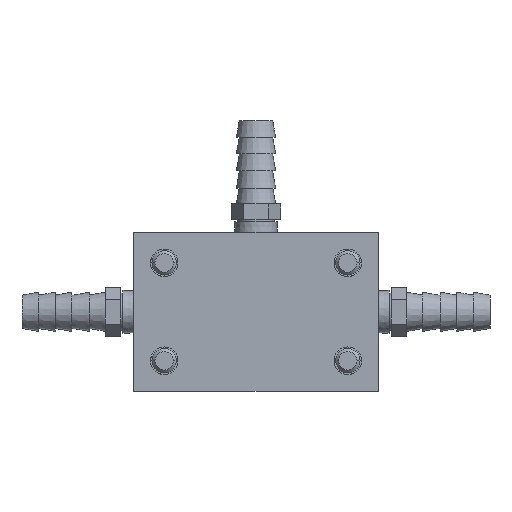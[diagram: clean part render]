
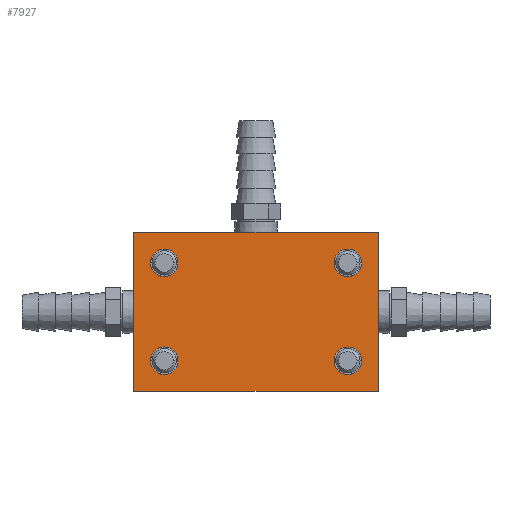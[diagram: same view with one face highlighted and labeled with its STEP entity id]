
A CAD part, left-side view. The second image highlights one B-rep face of the part: STEP entity #7927.
In plain terms, the highlighted planar face has unit normal (-1, 0, 0).
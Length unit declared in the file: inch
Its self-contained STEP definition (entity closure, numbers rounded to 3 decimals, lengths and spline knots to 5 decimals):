
#7665=CARTESIAN_POINT('',(-2.75,-0.9375,-0.5));
#7666=DIRECTION('',(1.,0.,0.));
#7667=DIRECTION('',(0.,-1.,0.));
#7668=AXIS2_PLACEMENT_3D('',#7665,#7666,#7667);
#7670=CARTESIAN_POINT('',(-2.75,-0.9375,-0.5));
#7671=DIRECTION('',(1.,0.,0.));
#7672=DIRECTION('',(0.,1.,0.));
#7673=AXIS2_PLACEMENT_3D('',#7670,#7671,#7672);
#7675=CARTESIAN_POINT('',(-2.75,0.9375,-0.5));
#7676=DIRECTION('',(1.,0.,0.));
#7677=DIRECTION('',(0.,-1.,0.));
#7678=AXIS2_PLACEMENT_3D('',#7675,#7676,#7677);
#7680=CARTESIAN_POINT('',(-2.75,0.9375,-0.5));
#7681=DIRECTION('',(1.,0.,0.));
#7682=DIRECTION('',(0.,1.,0.));
#7683=AXIS2_PLACEMENT_3D('',#7680,#7681,#7682);
#7685=CARTESIAN_POINT('',(-2.75,0.9375,0.5));
#7686=DIRECTION('',(1.,0.,0.));
#7687=DIRECTION('',(0.,-1.,0.));
#7688=AXIS2_PLACEMENT_3D('',#7685,#7686,#7687);
#7690=CARTESIAN_POINT('',(-2.75,0.9375,0.5));
#7691=DIRECTION('',(1.,0.,0.));
#7692=DIRECTION('',(0.,1.,0.));
#7693=AXIS2_PLACEMENT_3D('',#7690,#7691,#7692);
#7695=CARTESIAN_POINT('',(-2.75,-0.9375,0.5));
#7696=DIRECTION('',(1.,0.,0.));
#7697=DIRECTION('',(0.,-1.,0.));
#7698=AXIS2_PLACEMENT_3D('',#7695,#7696,#7697);
#7700=CARTESIAN_POINT('',(-2.75,-0.9375,0.5));
#7701=DIRECTION('',(1.,0.,0.));
#7702=DIRECTION('',(0.,1.,0.));
#7703=AXIS2_PLACEMENT_3D('',#7700,#7701,#7702);
#7797=DIRECTION('',(0.,0.,-1.));
#7798=VECTOR('',#7797,1.625);
#7799=CARTESIAN_POINT('',(-2.75,-1.25,0.8125));
#7800=LINE('',#7799,#7798);
#7805=DIRECTION('',(0.,1.,0.));
#7806=VECTOR('',#7805,2.5);
#7807=CARTESIAN_POINT('',(-2.75,-1.25,-0.8125));
#7808=LINE('',#7807,#7806);
#7809=DIRECTION('',(0.,0.,1.));
#7810=VECTOR('',#7809,1.625);
#7811=CARTESIAN_POINT('',(-2.75,1.25,-0.8125));
#7812=LINE('',#7811,#7810);
#7817=DIRECTION('',(0.,-1.,0.));
#7818=VECTOR('',#7817,2.5);
#7819=CARTESIAN_POINT('',(-2.75,1.25,0.8125));
#7820=LINE('',#7819,#7818);
#7829=CARTESIAN_POINT('',(-2.75,-1.25,-0.8125));
#7830=CARTESIAN_POINT('',(-2.75,1.25,-0.8125));
#7831=VERTEX_POINT('',#7829);
#7832=VERTEX_POINT('',#7830);
#7835=CARTESIAN_POINT('',(-2.75,-1.25,0.8125));
#7836=VERTEX_POINT('',#7835);
#7837=CARTESIAN_POINT('',(-2.75,1.25,0.8125));
#7838=VERTEX_POINT('',#7837);
#7841=CARTESIAN_POINT('',(-2.75,1.07813,0.5));
#7843=VERTEX_POINT('',#7841);
#7845=CARTESIAN_POINT('',(-2.75,0.79688,0.5));
#7847=VERTEX_POINT('',#7845);
#7849=CARTESIAN_POINT('',(-2.75,-0.79688,0.5));
#7851=VERTEX_POINT('',#7849);
#7853=CARTESIAN_POINT('',(-2.75,-1.07813,0.5));
#7855=VERTEX_POINT('',#7853);
#7857=CARTESIAN_POINT('',(-2.75,1.07813,-0.5));
#7859=VERTEX_POINT('',#7857);
#7861=CARTESIAN_POINT('',(-2.75,0.79688,-0.5));
#7863=VERTEX_POINT('',#7861);
#7865=CARTESIAN_POINT('',(-2.75,-0.79688,-0.5));
#7867=VERTEX_POINT('',#7865);
#7869=CARTESIAN_POINT('',(-2.75,-1.07813,-0.5));
#7871=VERTEX_POINT('',#7869);
#7889=CARTESIAN_POINT('',(-2.75,0.,0.));
#7890=DIRECTION('',(1.,0.,0.));
#7891=DIRECTION('',(0.,-1.,0.));
#7892=AXIS2_PLACEMENT_3D('',#7889,#7890,#7891);
#7893=PLANE('',#7892);
#7895=ORIENTED_EDGE('',*,*,#7894,.T.);
#7897=ORIENTED_EDGE('',*,*,#7896,.T.);
#7899=ORIENTED_EDGE('',*,*,#7898,.T.);
#7901=ORIENTED_EDGE('',*,*,#7900,.T.);
#7902=EDGE_LOOP('',(#7895,#7897,#7899,#7901));
#7903=FACE_OUTER_BOUND('',#7902,.F.);
#7905=ORIENTED_EDGE('',*,*,#7904,.F.);
#7907=ORIENTED_EDGE('',*,*,#7906,.F.);
#7908=EDGE_LOOP('',(#7905,#7907));
#7909=FACE_BOUND('',#7908,.F.);
#7910=ORIENTED_EDGE('',*,*,#7878,.F.);
#7912=ORIENTED_EDGE('',*,*,#7911,.F.);
#7913=EDGE_LOOP('',(#7910,#7912));
#7914=FACE_BOUND('',#7913,.F.);
#7916=ORIENTED_EDGE('',*,*,#7915,.F.);
#7918=ORIENTED_EDGE('',*,*,#7917,.F.);
#7919=EDGE_LOOP('',(#7916,#7918));
#7920=FACE_BOUND('',#7919,.F.);
#7922=ORIENTED_EDGE('',*,*,#7921,.F.);
#7924=ORIENTED_EDGE('',*,*,#7923,.F.);
#7925=EDGE_LOOP('',(#7922,#7924));
#7926=FACE_BOUND('',#7925,.F.);
#7669=CIRCLE('',#7668,0.14063);
#7674=CIRCLE('',#7673,0.14063);
#7679=CIRCLE('',#7678,0.14063);
#7684=CIRCLE('',#7683,0.14063);
#7689=CIRCLE('',#7688,0.14063);
#7694=CIRCLE('',#7693,0.14063);
#7699=CIRCLE('',#7698,0.14063);
#7704=CIRCLE('',#7703,0.14063);
#7878=EDGE_CURVE('',#7847,#7843,#7689,.T.);
#7894=EDGE_CURVE('',#7831,#7832,#7808,.T.);
#7896=EDGE_CURVE('',#7832,#7838,#7812,.T.);
#7898=EDGE_CURVE('',#7838,#7836,#7820,.T.);
#7900=EDGE_CURVE('',#7836,#7831,#7800,.T.);
#7904=EDGE_CURVE('',#7863,#7859,#7679,.T.);
#7906=EDGE_CURVE('',#7859,#7863,#7684,.T.);
#7911=EDGE_CURVE('',#7843,#7847,#7694,.T.);
#7915=EDGE_CURVE('',#7855,#7851,#7699,.T.);
#7917=EDGE_CURVE('',#7851,#7855,#7704,.T.);
#7921=EDGE_CURVE('',#7871,#7867,#7669,.T.);
#7923=EDGE_CURVE('',#7867,#7871,#7674,.T.);
#7927=ADVANCED_FACE('',(#7903,#7909,#7914,#7920,#7926),#7893,.F.);
